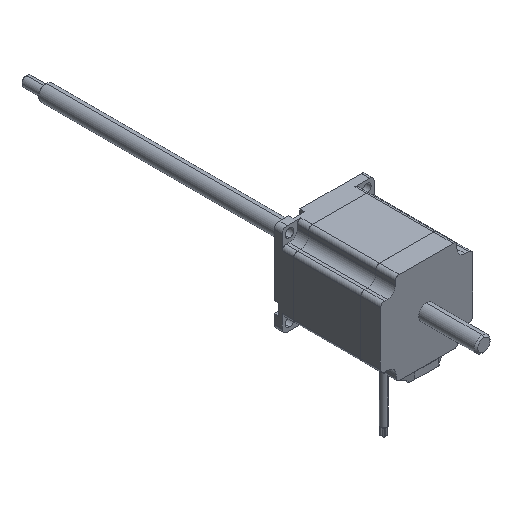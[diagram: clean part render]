
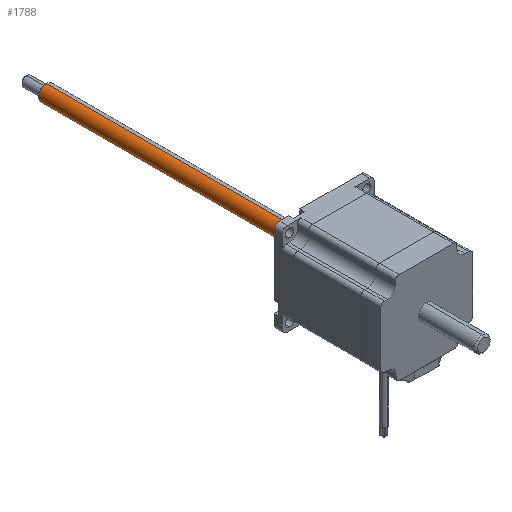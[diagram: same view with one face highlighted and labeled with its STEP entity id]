
A CAD part, isometric view. The second image highlights one B-rep face of the part: STEP entity #1788.
In plain terms, the highlighted cylindrical face has radius 4.763 mm (diameter 9.525 mm), a partial arc.
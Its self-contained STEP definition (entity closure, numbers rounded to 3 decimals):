
#78 = AXIS2_PLACEMENT_3D ( 'NONE', #564, #3201, #2779 ) ;
#482 = ORIENTED_EDGE ( 'NONE', *, *, #1559, .F. ) ;
#564 = CARTESIAN_POINT ( 'NONE',  ( 0., 172., 0. ) ) ;
#629 = ORIENTED_EDGE ( 'NONE', *, *, #2314, .T. ) ;
#872 = CARTESIAN_POINT ( 'NONE',  ( 0., 172., 4.763 ) ) ;
#905 = CARTESIAN_POINT ( 'NONE',  ( 0., 6.5, -4.763 ) ) ;
#1017 = DIRECTION ( 'NONE',  ( 0., 1., 0. ) ) ;
#1088 = VERTEX_POINT ( 'NONE', #5350 ) ;
#1121 = DIRECTION ( 'NONE',  ( 0., 1., 0. ) ) ;
#1291 = VERTEX_POINT ( 'NONE', #872 ) ;
#1436 = DIRECTION ( 'NONE',  ( 0., 1., 0. ) ) ;
#1517 = AXIS2_PLACEMENT_3D ( 'NONE', #4556, #1017, #2523 ) ;
#1559 = EDGE_CURVE ( 'NONE', #5869, #4789, #4308, .T. ) ;
#1788 = ADVANCED_FACE ( 'NONE', ( #5947 ), #5092, .T. ) ;
#1881 = EDGE_CURVE ( 'NONE', #5869, #1088, #1920, .T. ) ;
#1920 = CIRCLE ( 'NONE', #1517, 4.763 ) ;
#1936 = DIRECTION ( 'NONE',  ( 0., 0., 1. ) ) ;
#2314 = EDGE_CURVE ( 'NONE', #1088, #1291, #3184, .T. ) ;
#2327 = EDGE_LOOP ( 'NONE', ( #482, #3476, #629, #5471 ) ) ;
#2523 = DIRECTION ( 'NONE',  ( 0., 0., 1. ) ) ;
#2617 = CARTESIAN_POINT ( 'NONE',  ( 0., -95., 4.763 ) ) ;
#2779 = DIRECTION ( 'NONE',  ( 0., 0., 1. ) ) ;
#3184 = LINE ( 'NONE', #2617, #6499 ) ;
#3201 = DIRECTION ( 'NONE',  ( 0., -1., 0. ) ) ;
#3476 = ORIENTED_EDGE ( 'NONE', *, *, #1881, .T. ) ;
#3803 = DIRECTION ( 'NONE',  ( 0., 1., 0. ) ) ;
#3995 = VECTOR ( 'NONE', #3803, 1000. ) ;
#4178 = EDGE_CURVE ( 'NONE', #1291, #4789, #4911, .T. ) ;
#4308 = LINE ( 'NONE', #4901, #3995 ) ;
#4556 = CARTESIAN_POINT ( 'NONE',  ( 0., 6.5, 0. ) ) ;
#4789 = VERTEX_POINT ( 'NONE', #4939 ) ;
#4901 = CARTESIAN_POINT ( 'NONE',  ( 0., -95., -4.763 ) ) ;
#4911 = CIRCLE ( 'NONE', #78, 4.763 ) ;
#4939 = CARTESIAN_POINT ( 'NONE',  ( 0., 172., -4.763 ) ) ;
#5092 = CYLINDRICAL_SURFACE ( 'NONE', #6256, 4.763 ) ;
#5350 = CARTESIAN_POINT ( 'NONE',  ( 0., 6.5, 4.763 ) ) ;
#5411 = CARTESIAN_POINT ( 'NONE',  ( 0., -95., 0. ) ) ;
#5471 = ORIENTED_EDGE ( 'NONE', *, *, #4178, .T. ) ;
#5869 = VERTEX_POINT ( 'NONE', #905 ) ;
#5947 = FACE_OUTER_BOUND ( 'NONE', #2327, .T. ) ;
#6256 = AXIS2_PLACEMENT_3D ( 'NONE', #5411, #1436, #1936 ) ;
#6499 = VECTOR ( 'NONE', #1121, 1000. ) ;
